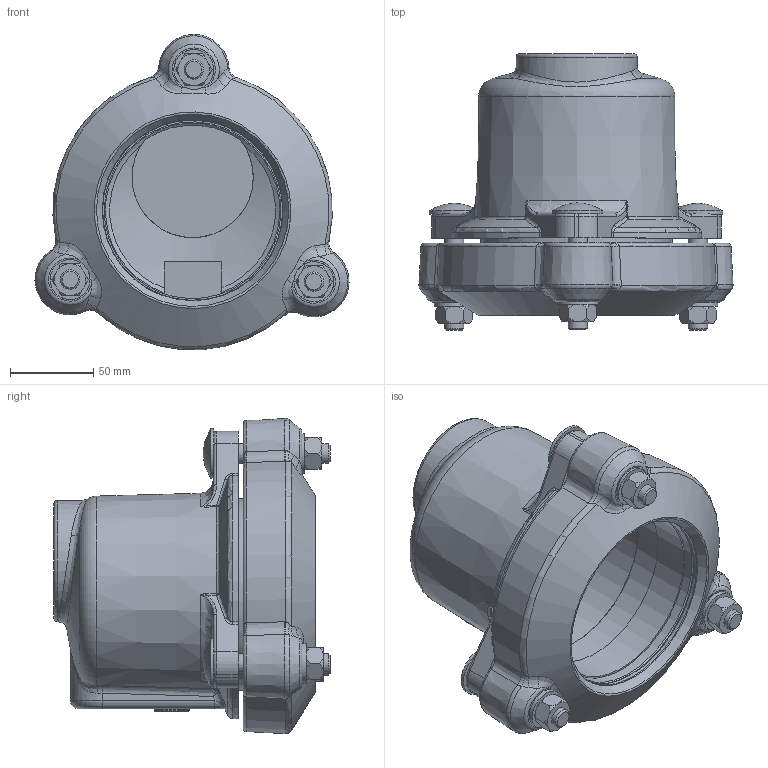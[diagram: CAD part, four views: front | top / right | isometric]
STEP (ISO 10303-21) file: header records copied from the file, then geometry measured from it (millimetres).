
FILE_DESCRIPTION((''),'2;1');
FILE_NAME('P:\Fastrack\54361_VIKING JOHNSON 3D\ULTRAGRIP\Component Parts\Components Built up\End-Cap\80MM-UltraGrip-End-Cap.stp','2012-04-23T12:53:03',('dcole'),(''),'Autodesk Inventor 2008','Autodesk Inventor 2008','');
FILE_SCHEMA(('AUTOMOTIVE_DESIGN { 1 0 10303 214 1 1 1 1 }'));
Length unit declared in the file: millimetre
Products named in the file (1): 80MM-UltraGrip-End-Cap
Bounding box: 189.17 x 166.39 x 189.9 mm (x, y, z)
Volume: 712577.4 mm3; surface area: 211826.9 mm2
Topology: 1 solids, 1 shells, 508 faces, 1309 edges, 805 vertices
Faces by surface type: bspline 138, plane 111, cone 93, cylinder 92, torus 73, sphere 1
Full cylindrical faces by diameter (mm): 9 x1, 11.75 x6, 12 x3, 13 x1, 24 x3, 30 x3, 73 x1, 106.5 x1, 108.5 x3, 109.25 x1, 115.5 x1
Entity records: 26373 total; most frequent: CARTESIAN_POINT 14889, ORIENTED_EDGE 2440, DIRECTION 1998, EDGE_CURVE 1220, AXIS2_PLACEMENT_3D 880, VERTEX_POINT 776, EDGE_LOOP 580, STYLED_ITEM 508
